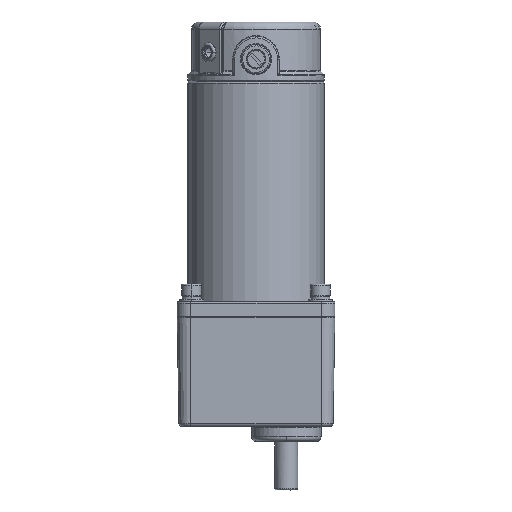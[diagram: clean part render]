
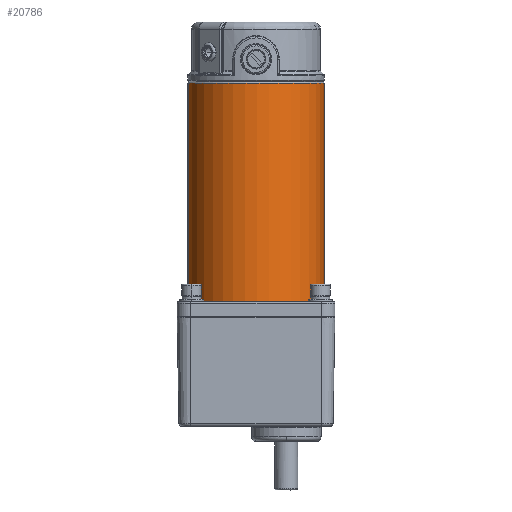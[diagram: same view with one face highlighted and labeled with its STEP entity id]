
A CAD part, front view. The second image highlights one B-rep face of the part: STEP entity #20786.
In plain terms, the highlighted cylindrical face has radius 45 mm (diameter 90 mm), a partial arc.
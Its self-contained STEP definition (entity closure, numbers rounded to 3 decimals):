
#47 = DIRECTION ( 'NONE',  ( 0., 1., 0. ) ) ;
#167 = VERTEX_POINT ( 'NONE', #10393 ) ;
#421 = ORIENTED_EDGE ( 'NONE', *, *, #20902, .F. ) ;
#904 = DIRECTION ( 'NONE',  ( 0., 1., 0. ) ) ;
#1092 = CARTESIAN_POINT ( 'NONE',  ( -7.759, 145., -45. ) ) ;
#1593 = ORIENTED_EDGE ( 'NONE', *, *, #13966, .T. ) ;
#2261 = VERTEX_POINT ( 'NONE', #21812 ) ;
#4032 = CARTESIAN_POINT ( 'NONE',  ( -7.759, 0.828, 0. ) ) ;
#4524 = CIRCLE ( 'NONE', #7135, 45. ) ;
#4532 = CARTESIAN_POINT ( 'NONE',  ( -7.759, 0., -45. ) ) ;
#4855 = CARTESIAN_POINT ( 'NONE',  ( -7.759, 145., 0. ) ) ;
#4907 = AXIS2_PLACEMENT_3D ( 'NONE', #4855, #11797, #8042 ) ;
#5248 = LINE ( 'NONE', #21253, #10496 ) ;
#5641 = EDGE_LOOP ( 'NONE', ( #1593, #12514, #6997, #421, #9565 ) ) ;
#5658 = FACE_OUTER_BOUND ( 'NONE', #5641, .T. ) ;
#6997 = ORIENTED_EDGE ( 'NONE', *, *, #21535, .F. ) ;
#7135 = AXIS2_PLACEMENT_3D ( 'NONE', #4032, #11213, #9453 ) ;
#8042 = DIRECTION ( 'NONE',  ( 0., 0., 1. ) ) ;
#8327 = CARTESIAN_POINT ( 'NONE',  ( -7.759, 0., 0. ) ) ;
#9192 = CARTESIAN_POINT ( 'NONE',  ( -7.759, 145., 45. ) ) ;
#9453 = DIRECTION ( 'NONE',  ( 0., 0., 1. ) ) ;
#9565 = ORIENTED_EDGE ( 'NONE', *, *, #21458, .T. ) ;
#10393 = CARTESIAN_POINT ( 'NONE',  ( 37.241, 0.828, 0. ) ) ;
#10496 = VECTOR ( 'NONE', #47, 1000. ) ;
#11176 = VECTOR ( 'NONE', #11702, 1000. ) ;
#11213 = DIRECTION ( 'NONE',  ( 0., 1., 0. ) ) ;
#11306 = CARTESIAN_POINT ( 'NONE',  ( -7.759, 0.828, 0. ) ) ;
#11637 = AXIS2_PLACEMENT_3D ( 'NONE', #8327, #904, #19358 ) ;
#11702 = DIRECTION ( 'NONE',  ( 0., 1., 0. ) ) ;
#11797 = DIRECTION ( 'NONE',  ( 0., 1., 0. ) ) ;
#12514 = ORIENTED_EDGE ( 'NONE', *, *, #17577, .T. ) ;
#13966 = EDGE_CURVE ( 'NONE', #167, #16378, #21128, .T. ) ;
#14824 = DIRECTION ( 'NONE',  ( 0., 0., 1. ) ) ;
#15837 = AXIS2_PLACEMENT_3D ( 'NONE', #11306, #20245, #14824 ) ;
#16378 = VERTEX_POINT ( 'NONE', #23243 ) ;
#16521 = VERTEX_POINT ( 'NONE', #1092 ) ;
#17577 = EDGE_CURVE ( 'NONE', #16378, #16521, #20648, .T. ) ;
#19358 = DIRECTION ( 'NONE',  ( 0., 0., 1. ) ) ;
#20007 = CYLINDRICAL_SURFACE ( 'NONE', #11637, 45. ) ;
#20245 = DIRECTION ( 'NONE',  ( 0., 1., 0. ) ) ;
#20305 = CIRCLE ( 'NONE', #4907, 45. ) ;
#20648 = LINE ( 'NONE', #4532, #11176 ) ;
#20786 = ADVANCED_FACE ( 'NONE', ( #5658 ), #20007, .T. ) ;
#20902 = EDGE_CURVE ( 'NONE', #2261, #22592, #5248, .T. ) ;
#21128 = CIRCLE ( 'NONE', #15837, 45. ) ;
#21253 = CARTESIAN_POINT ( 'NONE',  ( -7.759, 0., 45. ) ) ;
#21458 = EDGE_CURVE ( 'NONE', #2261, #167, #4524, .T. ) ;
#21535 = EDGE_CURVE ( 'NONE', #22592, #16521, #20305, .T. ) ;
#21812 = CARTESIAN_POINT ( 'NONE',  ( -7.759, 0.828, 45. ) ) ;
#22592 = VERTEX_POINT ( 'NONE', #9192 ) ;
#23243 = CARTESIAN_POINT ( 'NONE',  ( -7.759, 0.828, -45. ) ) ;
